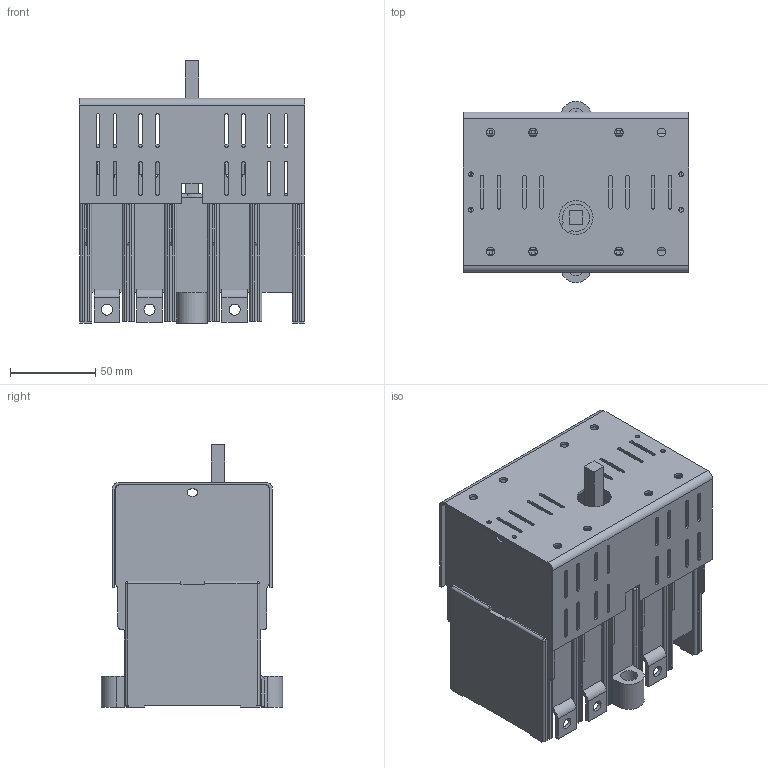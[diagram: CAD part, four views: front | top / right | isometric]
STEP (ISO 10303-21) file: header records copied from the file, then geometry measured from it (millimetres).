
FILE_DESCRIPTION(/* description */ (''),/* implementation_level */ '2;1');
FILE_NAME(/* name */ 'RAB 000 P3 C.stp',/* time_stamp */ '2021-08-19T10:50:02+02:00',/* author */ (''),/* organization */ (''),/* preprocessor_version */ 'ST-DEVELOPER v18.1',/* originating_system */ 'SIEMENS PLM Software NX 1965',/* authorisation */ '');
FILE_SCHEMA (('AUTOMOTIVE_DESIGN { 1 0 10303 214 3 1 1 1 }'));
Length unit declared in the file: millimetre
Products named in the file (1): RAB 000 P3 C_stp
Bounding box: 132.5 x 106.51 x 154 mm (x, y, z)
Volume: 738321.2 mm3; surface area: 207561.4 mm2
Topology: 1 solids, 1 shells, 1021 faces, 2894 edges, 1856 vertices
Faces by surface type: plane 654, cylinder 343, sphere 23, bspline 1
Full cylindrical faces by diameter (mm): 2.7 x4, 5 x8, 5.8 x2, 6.5 x6, 10 x2, 20 x1
Entity records: 32900 total; most frequent: CARTESIAN_POINT 6005, ORIENTED_EDGE 5674, DIRECTION 5470, EDGE_CURVE 2837, LINE 2084, VECTOR 2084, VERTEX_POINT 1846, AXIS2_PLACEMENT_3D 1693
